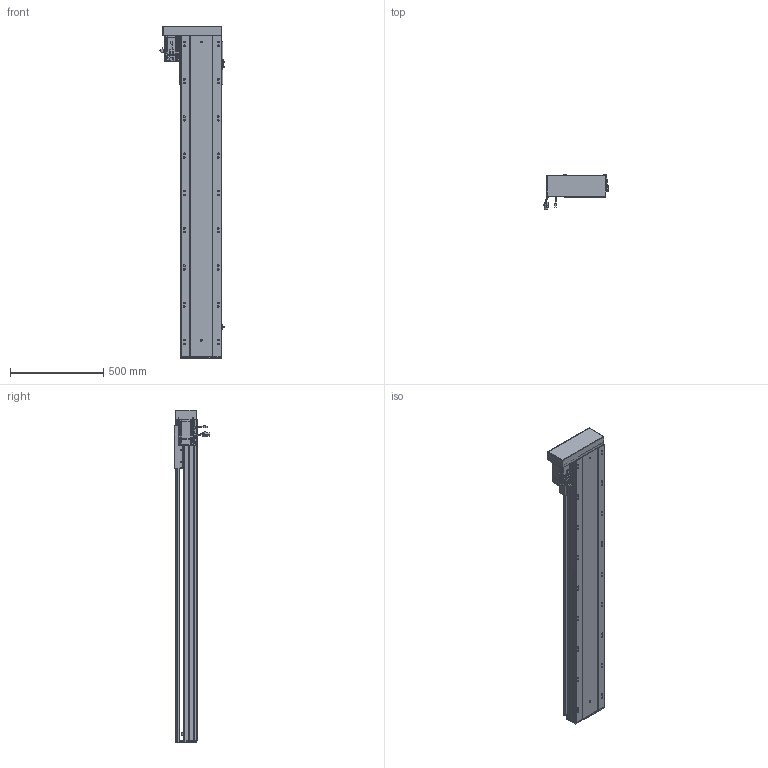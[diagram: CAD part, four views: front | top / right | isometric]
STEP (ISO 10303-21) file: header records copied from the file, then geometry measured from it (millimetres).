
FILE_DESCRIPTION (( 'STEP AP203' ), '1' );
FILE_NAME ('RY220-L2525-300-LK.SLDASM_1400.step', '2022-07-04T01:47:21', ( '' ), ( '' ), 'SwSTEP 2.0', 'SolidWorks 2016', '' );
FILE_SCHEMA (( 'CONFIG_CONTROL_DESIGN' ));
Length unit declared in the file: millimetre
Products named in the file (12): 滅袉蝶18-15; RY220半封闭25-32螺母铝滑块; RY220酘衵殏萇儂欶; 怢湛750W_ECMA-CX0807ES; RY220-300-蛌殏奻裔啣_1400; RY220綴裔啣; RY220蛌殏菁釱-300_1400; 覜茼ん672; 滅袉蝶18-10; RY220左右折电机安装板; RY220-俋离672覜茼んえ; RY220-L2525-300-LK.SLDASM_1400
Assembly tree (15 placements, depth 2):
  RY220-L2525-300-LK.SLDASM_1400
    RY220蛌殏菁釱-300_1400
    RY220-300-蛌殏奻裔啣_1400
    怢湛750W_ECMA-CX0807ES
    滅袉蝶18-10  x2
    RY220-俋离672覜茼んえ
    覜茼ん672  x3
    RY220綴裔啣
    RY220半封闭25-32螺母铝滑块
    滅袉蝶18-15  x2
    RY220左右折电机安装板
    RY220酘衵殏萇儂欶
Bounding box: 347.44 x 189.27 x 1782 mm (x, y, z)
Volume: 14150397.2 mm3; surface area: 4221498.8 mm2
Topology: 16 solids, 16 shells, 2239 faces, 6176 edges, 3889 vertices
Faces by surface type: cylinder 1023, plane 896, cone 250, bspline 44, sphere 16, torus 10
Entity records: 73853 total; most frequent: CARTESIAN_POINT 21335, ORIENTED_EDGE 10880, DIRECTION 10300, EDGE_CURVE 5440, AXIS2_PLACEMENT_3D 3641, VERTEX_POINT 3545, LINE 3018, VECTOR 3018
